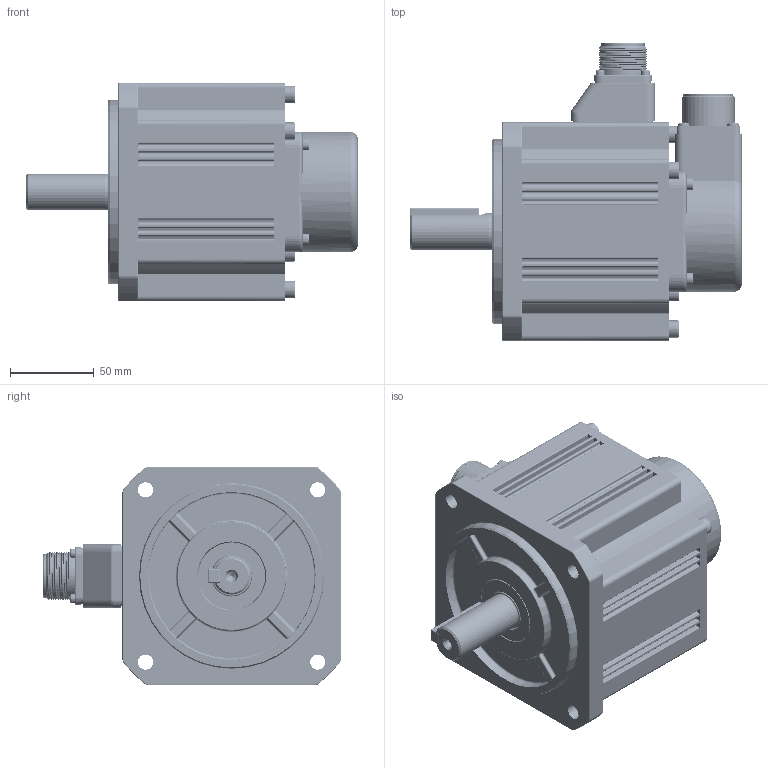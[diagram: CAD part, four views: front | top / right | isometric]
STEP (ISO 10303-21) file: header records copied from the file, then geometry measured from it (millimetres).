
FILE_DESCRIPTION((''),'2;1');
FILE_NAME('11101-01359_ASM','2024-11-12T16:12:27',('0109276'),(''),'CREO PARAMETRIC BY PTC INC, 2019080','CREO PARAMETRIC BY PTC INC, 2019080','');
FILE_SCHEMA(('CONFIG_CONTROL_DESIGN'));
Products named in the file (114): 80040368_AF0; 66670023_AF0; 77840015_AF0; 77840005_AF0; 15CDZZJ_AF0_ASM; 66670023_AF1; 77840015_AF1; 77840005_AF1; 15CDZZJ_AF1_ASM; 66670023_AF2; 77840015_AF2; 77840005_AF2; 15CDZZJ_AF2_ASM; 66670023_AF3; 77840015_AF3; 77840005_AF3; 15CDZZJ_AF3_ASM; 66670023_AF4; 77840015_AF4; 77840005_AF4; 15CDZZJ_AF4_ASM; 66670023_AF5; 77840015_AF5; 77840005_AF5; 15CDZZJ_AF5_ASM; 66670023_AF6; 77840015_AF6; 77840005_AF6; 15CDZZJ_AF6_ASM; 66670023_AF7; 77840015_AF7; 77840005_AF7; 15CDZZJ_AF7_ASM; 66670023_AF8; 77840015_AF8; 77840005_AF8; 15CDZZJ_AF8_ASM; 66670023_AF9; 77840015_AF9; 77840005_AF9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
Assembly tree (116 placements, depth 4):
  11101-01359_ASM
    12112-01175_AF0_ASM
      80040368_AF0
      15CDZZJ_AF0_ASM
        66670023_AF0
        77840015_AF0
        77840005_AF0
      15CDZZJ_AF1_ASM
        66670023_AF1
        77840015_AF1
        77840005_AF1
      15CDZZJ_AF2_ASM
        66670023_AF2
        77840015_AF2
        77840005_AF2
      15CDZZJ_AF3_ASM
        66670023_AF3
        77840015_AF3
        77840005_AF3
      15CDZZJ_AF4_ASM
        66670023_AF4
        77840015_AF4
        77840005_AF4
      15CDZZJ_AF5_ASM
        66670023_AF5
        77840015_AF5
        77840005_AF5
      15CDZZJ_AF6_ASM
        66670023_AF6
        77840015_AF6
        77840005_AF6
      15CDZZJ_AF7_ASM
        66670023_AF7
        77840015_AF7
        77840005_AF7
      15CDZZJ_AF8_ASM
        66670023_AF8
        77840015_AF8
        77840005_AF8
      15CDZZJ_AF9_ASM
        66670023_AF9
        77840015_AF9
        77840005_AF9
      15CDZZJ_AF10_ASM
        66670023_AF10
        77840015_AF10
        77840005_AF10
      15CDZZJ_AF11_ASM
        66670023_AF11
        77840015_AF11
        77840005_AF11
      PCB_PM2301_CV1_AF0
      QBX-15C-2_AF0
      QBX-15C-2_AF1
      QBX-15C-2_AF2
      QBX-15C-2_AF3
      QBX-15C-2_AF4
      QBX-15C-2_AF5
      QBX-15C-2_AF6
      QBX-15C-2_AF7
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Bounding box: 197.7 x 177.2 x 130 mm (x, y, z)
Volume: 587156.2 mm3; surface area: 255441.9 mm2
Topology: 27 solids, 49 shells, 5741 faces, 15555 edges, 10067 vertices
Faces by surface type: cylinder 2060, plane 2006, extrusion 812, bspline 395, torus 264, cone 144, sphere 60
Entity records: 271807 total; most frequent: CARTESIAN_POINT 140275, ORIENTED_EDGE 29154, DIRECTION 22834, EDGE_CURVE 14615, VERTEX_POINT 9506, VECTOR 8748, LINE 7936, AXIS2_PLACEMENT_3D 7043
